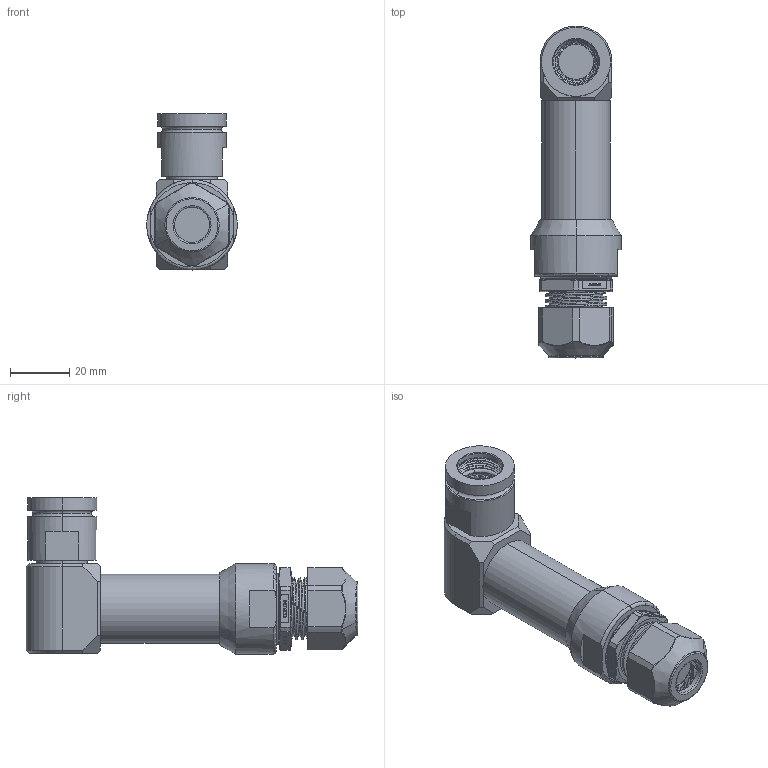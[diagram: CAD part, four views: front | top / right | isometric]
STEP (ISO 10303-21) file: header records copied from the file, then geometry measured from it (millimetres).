
FILE_DESCRIPTION (( 'STEP AP214' ), '1' );
FILE_NAME ('Q38EBSHELL-90X-11-XXXX-GL.STEP', '2025-09-24T14:56:17', ( '' ), ( '' ), 'SwSTEP 2.0', 'SolidWorks 2024', '' );
FILE_SCHEMA (( 'AUTOMOTIVE_DESIGN' ));
Length unit declared in the file: millimetre
Products named in the file (1): Q38EBSHELL-90X-11-XXXX-GL
Bounding box: 30.48 x 111.84 x 52.59 mm (x, y, z)
Surface area: 22536.2 mm2 (no closed solid volume)
Topology: 0 solids, 10 shells, 1318 faces, 3359 edges, 2119 vertices
Faces by surface type: plane 630, cylinder 241, bspline 154, torus 123, cone 116, sphere 54
Entity records: 60701 total; most frequent: CARTESIAN_POINT 35251, ORIENTED_EDGE 6676, EDGE_CURVE 3358, DIRECTION 3108, B_SPLINE_CURVE_WITH_KNOTS 2630, VERTEX_POINT 2119, AXIS2_PLACEMENT_3D 1429, EDGE_LOOP 1386
